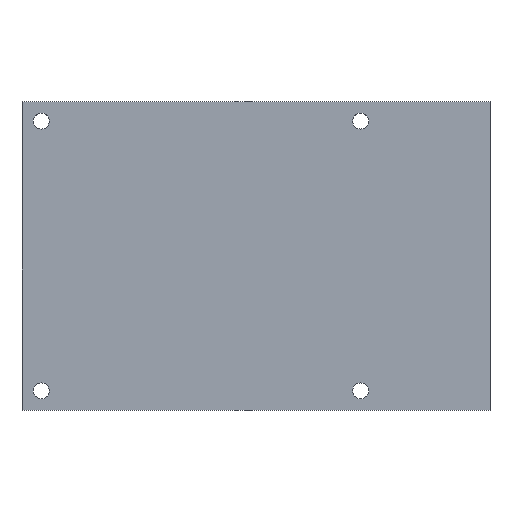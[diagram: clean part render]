
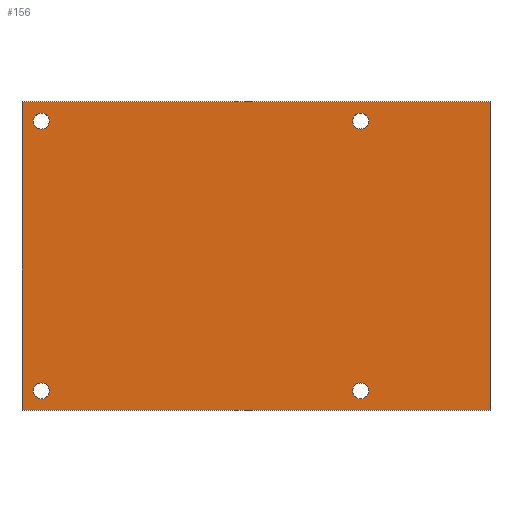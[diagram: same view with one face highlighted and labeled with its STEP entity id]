
A CAD part, top view. The second image highlights one B-rep face of the part: STEP entity #156.
In plain terms, the highlighted planar face has unit normal (0, 0, 1).
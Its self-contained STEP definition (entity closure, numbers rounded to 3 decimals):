
#32 = VERTEX_POINT('',#33);
#33 = CARTESIAN_POINT('',(0.,56.,3.));
#39 = EDGE_CURVE('',#32,#40,#42,.T.);
#40 = VERTEX_POINT('',#41);
#41 = CARTESIAN_POINT('',(0.,0.,3.));
#42 = LINE('',#43,#44);
#43 = CARTESIAN_POINT('',(0.,56.,3.));
#44 = VECTOR('',#45,1.);
#45 = DIRECTION('',(0.,-1.,0.));
#139 = VERTEX_POINT('',#140);
#140 = CARTESIAN_POINT('',(85.,0.,3.));
#146 = EDGE_CURVE('',#40,#139,#147,.T.);
#147 = LINE('',#148,#149);
#148 = CARTESIAN_POINT('',(0.,0.,3.));
#149 = VECTOR('',#150,1.);
#150 = DIRECTION('',(1.,0.,0.));
#156 = ADVANCED_FACE('',(#157,#175,#186,#197,#208),#219,.T.);
#157 = FACE_BOUND('',#158,.T.);
#158 = EDGE_LOOP('',(#159,#167,#168,#169));
#159 = ORIENTED_EDGE('',*,*,#160,.F.);
#160 = EDGE_CURVE('',#32,#161,#163,.T.);
#161 = VERTEX_POINT('',#162);
#162 = CARTESIAN_POINT('',(85.,56.,3.));
#163 = LINE('',#164,#165);
#164 = CARTESIAN_POINT('',(0.,56.,3.));
#165 = VECTOR('',#166,1.);
#166 = DIRECTION('',(1.,0.,0.));
#167 = ORIENTED_EDGE('',*,*,#39,.T.);
#168 = ORIENTED_EDGE('',*,*,#146,.T.);
#169 = ORIENTED_EDGE('',*,*,#170,.F.);
#170 = EDGE_CURVE('',#161,#139,#171,.T.);
#171 = LINE('',#172,#173);
#172 = CARTESIAN_POINT('',(85.,56.,3.));
#173 = VECTOR('',#174,1.);
#174 = DIRECTION('',(0.,-1.,0.));
#175 = FACE_BOUND('',#176,.T.);
#176 = EDGE_LOOP('',(#177));
#177 = ORIENTED_EDGE('',*,*,#178,.F.);
#178 = EDGE_CURVE('',#179,#179,#181,.T.);
#179 = VERTEX_POINT('',#180);
#180 = CARTESIAN_POINT('',(3.5,51.05,3.));
#181 = CIRCLE('',#182,1.45);
#182 = AXIS2_PLACEMENT_3D('',#183,#184,#185);
#183 = CARTESIAN_POINT('',(3.5,52.5,3.));
#184 = DIRECTION('',(0.,0.,1.));
#185 = DIRECTION('',(0.,-1.,0.));
#186 = FACE_BOUND('',#187,.T.);
#187 = EDGE_LOOP('',(#188));
#188 = ORIENTED_EDGE('',*,*,#189,.F.);
#189 = EDGE_CURVE('',#190,#190,#192,.T.);
#190 = VERTEX_POINT('',#191);
#191 = CARTESIAN_POINT('',(3.5,2.05,3.));
#192 = CIRCLE('',#193,1.45);
#193 = AXIS2_PLACEMENT_3D('',#194,#195,#196);
#194 = CARTESIAN_POINT('',(3.5,3.5,3.));
#195 = DIRECTION('',(0.,0.,1.));
#196 = DIRECTION('',(0.,-1.,0.));
#197 = FACE_BOUND('',#198,.T.);
#198 = EDGE_LOOP('',(#199));
#199 = ORIENTED_EDGE('',*,*,#200,.F.);
#200 = EDGE_CURVE('',#201,#201,#203,.T.);
#201 = VERTEX_POINT('',#202);
#202 = CARTESIAN_POINT('',(61.5,51.05,3.));
#203 = CIRCLE('',#204,1.45);
#204 = AXIS2_PLACEMENT_3D('',#205,#206,#207);
#205 = CARTESIAN_POINT('',(61.5,52.5,3.));
#206 = DIRECTION('',(0.,0.,1.));
#207 = DIRECTION('',(0.,-1.,0.));
#208 = FACE_BOUND('',#209,.T.);
#209 = EDGE_LOOP('',(#210));
#210 = ORIENTED_EDGE('',*,*,#211,.F.);
#211 = EDGE_CURVE('',#212,#212,#214,.T.);
#212 = VERTEX_POINT('',#213);
#213 = CARTESIAN_POINT('',(61.5,2.05,3.));
#214 = CIRCLE('',#215,1.45);
#215 = AXIS2_PLACEMENT_3D('',#216,#217,#218);
#216 = CARTESIAN_POINT('',(61.5,3.5,3.));
#217 = DIRECTION('',(0.,0.,1.));
#218 = DIRECTION('',(0.,-1.,0.));
#219 = PLANE('',#220);
#220 = AXIS2_PLACEMENT_3D('',#221,#222,#223);
#221 = CARTESIAN_POINT('',(0.,56.,3.));
#222 = DIRECTION('',(0.,0.,1.));
#223 = DIRECTION('',(0.,-1.,0.));
